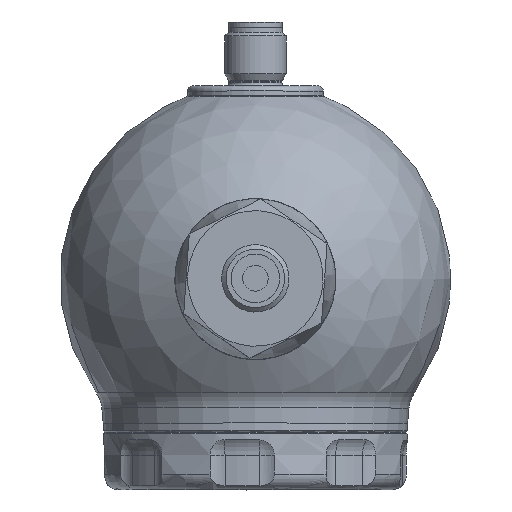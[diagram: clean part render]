
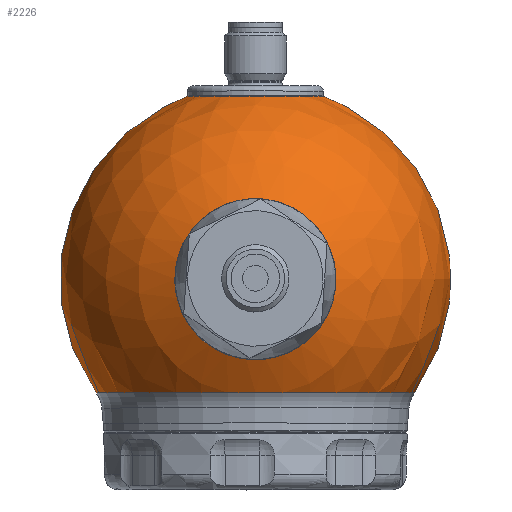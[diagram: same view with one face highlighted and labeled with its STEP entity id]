
A CAD part, top view. The second image highlights one B-rep face of the part: STEP entity #2226.
In plain terms, the highlighted spherical face has radius 38.2 mm.
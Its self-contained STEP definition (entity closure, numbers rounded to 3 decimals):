
#48=SPHERICAL_SURFACE('',#2434,38.2);
#294=FACE_BOUND('',#604,.T.);
#295=FACE_BOUND('',#605,.T.);
#296=FACE_BOUND('',#606,.T.);
#604=EDGE_LOOP('',(#1552));
#605=EDGE_LOOP('',(#1553));
#606=EDGE_LOOP('',(#1554));
#835=CIRCLE('',#2435,13.065);
#836=CIRCLE('',#2436,7.3);
#837=CIRCLE('',#2437,31.101);
#1019=VERTEX_POINT('',#3596);
#1020=VERTEX_POINT('',#3598);
#1021=VERTEX_POINT('',#3600);
#1232=EDGE_CURVE('',#1019,#1019,#835,.T.);
#1233=EDGE_CURVE('',#1020,#1020,#836,.T.);
#1234=EDGE_CURVE('',#1021,#1021,#837,.T.);
#1552=ORIENTED_EDGE('',*,*,#1232,.T.);
#1553=ORIENTED_EDGE('',*,*,#1233,.T.);
#1554=ORIENTED_EDGE('',*,*,#1234,.T.);
#2226=ADVANCED_FACE('',(#294,#295,#296),#48,.T.);
#2434=AXIS2_PLACEMENT_3D('',#3595,#2867,#2868);
#2435=AXIS2_PLACEMENT_3D('',#3597,#2869,#2870);
#2436=AXIS2_PLACEMENT_3D('',#3599,#2871,#2872);
#2437=AXIS2_PLACEMENT_3D('',#3601,#2873,#2874);
#2867=DIRECTION('center_axis',(0.,0.,1.));
#2868=DIRECTION('ref_axis',(1.,0.,0.));
#2869=DIRECTION('center_axis',(0.,-1.,0.));
#2870=DIRECTION('ref_axis',(-1.,0.,0.));
#2871=DIRECTION('center_axis',(0.,0.,-1.));
#2872=DIRECTION('ref_axis',(-1.,0.,0.));
#2873=DIRECTION('center_axis',(0.,1.,0.));
#2874=DIRECTION('ref_axis',(-1.,0.,0.));
#3595=CARTESIAN_POINT('Origin',(0.,0.,0.));
#3596=CARTESIAN_POINT('',(13.065,35.896,0.));
#3597=CARTESIAN_POINT('Origin',(0.,35.896,
0.));
#3598=CARTESIAN_POINT('',(7.3,0.,37.496));
#3599=CARTESIAN_POINT('Origin',(0.,0.,37.496));
#3600=CARTESIAN_POINT('',(-31.101,-22.18,0.));
#3601=CARTESIAN_POINT('Origin',(0.,-22.18,0.));
